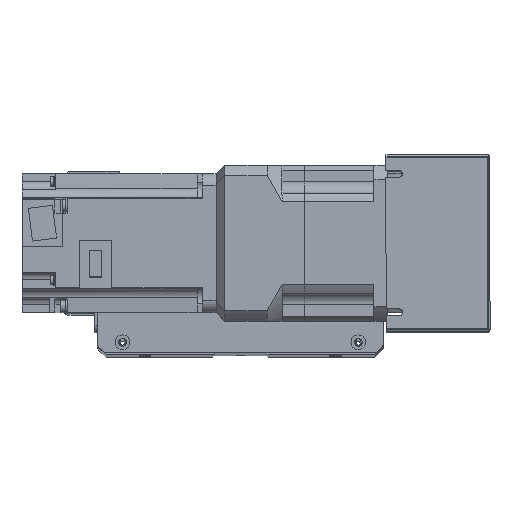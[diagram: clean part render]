
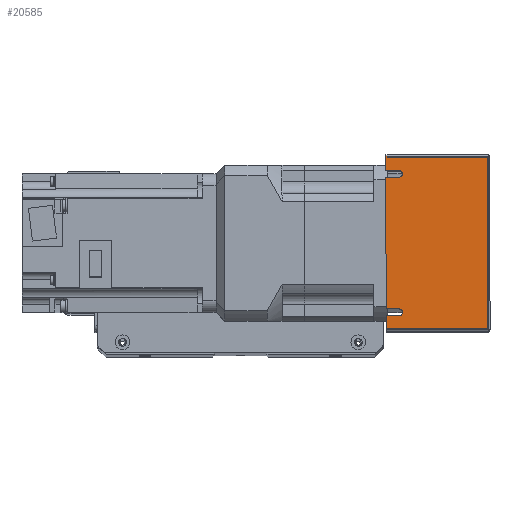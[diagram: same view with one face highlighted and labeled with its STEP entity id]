
A CAD part, top view. The second image highlights one B-rep face of the part: STEP entity #20585.
In plain terms, the highlighted planar face has unit normal (0, 0, 1) as drawn and (-1, 0, 0) by its records, which use the part's own axes.
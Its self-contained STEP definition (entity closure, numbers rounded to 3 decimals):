
#544=PLANE('',#22393);
#1632=LINE('',#32638,#3292);
#1638=LINE('',#32652,#3298);
#1650=LINE('',#32679,#3310);
#1660=LINE('',#32701,#3320);
#1668=LINE('',#32720,#3328);
#1669=LINE('',#32723,#3329);
#1670=LINE('',#32725,#3330);
#1671=LINE('',#32727,#3331);
#1672=LINE('',#32729,#3332);
#1673=LINE('',#32730,#3333);
#3292=VECTOR('',#26535,10.);
#3298=VECTOR('',#26545,10.);
#3310=VECTOR('',#26563,10.);
#3320=VECTOR('',#26577,10.);
#3328=VECTOR('',#26599,10.);
#3329=VECTOR('',#26602,10.);
#3330=VECTOR('',#26603,10.);
#3331=VECTOR('',#26604,10.);
#3332=VECTOR('',#26605,10.);
#3333=VECTOR('',#26606,10.);
#5306=FACE_OUTER_BOUND('',#6726,.T.);
#6726=EDGE_LOOP('',(#16018,#16019,#16020,#16021,#16022,#16023,#16024,#16025,
#16026,#16027,#16028,#16029));
#8148=CIRCLE('',#22389,2.);
#8151=CIRCLE('',#22394,2.);
#9569=VERTEX_POINT('',#32635);
#9570=VERTEX_POINT('',#32637);
#9575=VERTEX_POINT('',#32650);
#9576=VERTEX_POINT('',#32651);
#9587=VERTEX_POINT('',#32677);
#9588=VERTEX_POINT('',#32678);
#9597=VERTEX_POINT('',#32698);
#9598=VERTEX_POINT('',#32700);
#9603=VERTEX_POINT('',#32722);
#9604=VERTEX_POINT('',#32724);
#9605=VERTEX_POINT('',#32726);
#9606=VERTEX_POINT('',#32728);
#11905=EDGE_CURVE('',#9569,#9570,#1632,.T.);
#11911=EDGE_CURVE('',#9575,#9576,#1638,.T.);
#11923=EDGE_CURVE('',#9587,#9588,#1650,.T.);
#11933=EDGE_CURVE('',#9597,#9598,#1660,.T.);
#11936=EDGE_CURVE('',#9576,#9569,#8148,.T.);
#11945=EDGE_CURVE('',#9575,#9598,#1668,.T.);
#11946=EDGE_CURVE('',#9588,#9597,#8151,.T.);
#11947=EDGE_CURVE('',#9587,#9603,#1669,.T.);
#11948=EDGE_CURVE('',#9603,#9604,#1670,.T.);
#11949=EDGE_CURVE('',#9604,#9605,#1671,.T.);
#11950=EDGE_CURVE('',#9605,#9606,#1672,.T.);
#11951=EDGE_CURVE('',#9606,#9570,#1673,.T.);
#16018=ORIENTED_EDGE('',*,*,#11905,.F.);
#16019=ORIENTED_EDGE('',*,*,#11936,.F.);
#16020=ORIENTED_EDGE('',*,*,#11911,.F.);
#16021=ORIENTED_EDGE('',*,*,#11945,.T.);
#16022=ORIENTED_EDGE('',*,*,#11933,.F.);
#16023=ORIENTED_EDGE('',*,*,#11946,.F.);
#16024=ORIENTED_EDGE('',*,*,#11923,.F.);
#16025=ORIENTED_EDGE('',*,*,#11947,.T.);
#16026=ORIENTED_EDGE('',*,*,#11948,.T.);
#16027=ORIENTED_EDGE('',*,*,#11949,.T.);
#16028=ORIENTED_EDGE('',*,*,#11950,.T.);
#16029=ORIENTED_EDGE('',*,*,#11951,.T.);
#20585=ADVANCED_FACE('',(#5306),#544,.F.);
#22389=AXIS2_PLACEMENT_3D('',#32705,#26583,#26584);
#22393=AXIS2_PLACEMENT_3D('',#32719,#26597,#26598);
#22394=AXIS2_PLACEMENT_3D('',#32721,#26600,#26601);
#26535=DIRECTION('',(0.,0.,-1.));
#26545=DIRECTION('',(0.,0.,1.));
#26563=DIRECTION('',(0.,0.,1.));
#26577=DIRECTION('',(0.,0.,-1.));
#26583=DIRECTION('center_axis',(-1.,0.,0.));
#26584=DIRECTION('ref_axis',(0.,0.,1.));
#26597=DIRECTION('center_axis',(1.,0.,0.));
#26598=DIRECTION('ref_axis',(0.,-1.,0.));
#26599=DIRECTION('',(0.,-1.,0.));
#26600=DIRECTION('center_axis',(-1.,0.,0.));
#26601=DIRECTION('ref_axis',(0.,0.,1.));
#26602=DIRECTION('',(0.,-1.,0.));
#26603=DIRECTION('',(0.,0.,1.));
#26604=DIRECTION('',(0.,1.,0.));
#26605=DIRECTION('',(0.,0.,-1.));
#26606=DIRECTION('',(0.,-1.,0.));
#32635=CARTESIAN_POINT('',(-120.5,42.,-22.5));
#32637=CARTESIAN_POINT('',(-120.5,42.,-30.));
#32638=CARTESIAN_POINT('',(-120.5,42.,-16.304));
#32650=CARTESIAN_POINT('',(-120.5,38.,-30.));
#32651=CARTESIAN_POINT('',(-120.5,38.,-22.5));
#32652=CARTESIAN_POINT('',(-120.5,38.,-11.25));
#32677=CARTESIAN_POINT('',(-120.5,-42.,-30.));
#32678=CARTESIAN_POINT('',(-120.5,-42.,-22.5));
#32679=CARTESIAN_POINT('',(-120.5,-42.,-11.25));
#32698=CARTESIAN_POINT('',(-120.5,-38.,-22.5));
#32700=CARTESIAN_POINT('',(-120.5,-38.,-30.));
#32701=CARTESIAN_POINT('',(-120.5,-38.,-16.169));
#32705=CARTESIAN_POINT('Origin',(-120.5,40.,-22.5));
#32719=CARTESIAN_POINT('Origin',(-120.5,51.,0.));
#32720=CARTESIAN_POINT('',(-120.5,-51.,-30.));
#32721=CARTESIAN_POINT('Origin',(-120.5,-40.,-22.5));
#32722=CARTESIAN_POINT('',(-120.5,-50.,-30.));
#32723=CARTESIAN_POINT('',(-120.5,-51.,-30.));
#32724=CARTESIAN_POINT('',(-120.5,-50.,29.));
#32725=CARTESIAN_POINT('',(-120.5,-50.,0.));
#32726=CARTESIAN_POINT('',(-120.5,50.,29.));
#32727=CARTESIAN_POINT('',(-120.5,25.5,29.));
#32728=CARTESIAN_POINT('',(-120.5,50.,-30.));
#32729=CARTESIAN_POINT('',(-120.5,50.,0.));
#32730=CARTESIAN_POINT('',(-120.5,-51.,-30.));
